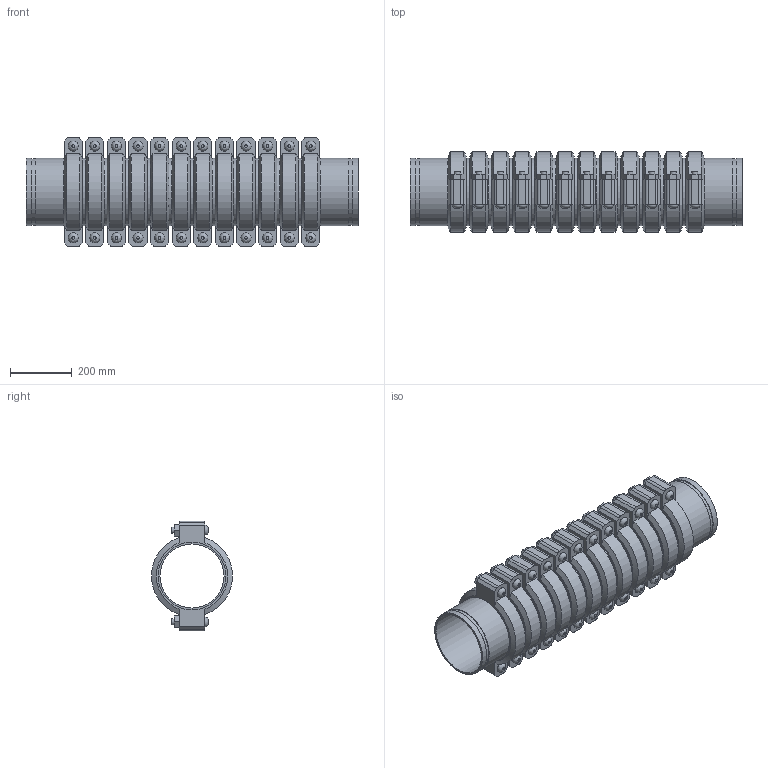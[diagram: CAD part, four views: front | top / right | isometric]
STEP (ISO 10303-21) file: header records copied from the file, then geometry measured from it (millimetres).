
FILE_DESCRIPTION(/* description */ ('VIC SS EXPANSION JOINT 12 COUPLINGS COMPRESSED STYLE 155P (OGS) (POTABLE WATER) ','CAx-IF Rec.Pracs.---Representation and Presentation of Product Manufacturing Information (PMI)---4.0---2014-10-13'),/* implementation_level */ '2;1');
FILE_NAME(/* name */ 'C:\Users\kkamble\AppData\Roaming\Autodesk\ApplicationPlugins\Victaulic.Temp\A528\Victaulic_SS_Expansion Joint_Compressed_12 Couplings_Style 155P (OGS)-Potable Water_12 Coup_Comp_8 (200).stp',/* time_stamp */ '2021-07-16T17:08:27+06:00',/* author */ ('kkamble'),/* organization */ ('Victaulic'),/* preprocessor_version */ 'ST-DEVELOPER v17.2',/* originating_system */ 'Autodesk Inventor 2019',/* authorisation */ '');
FILE_SCHEMA (('AP242_MANAGED_MODEL_BASED_3D_ENGINEERING_MIM_LF { 1 0 10303 442 1 1 4 }'));
Length unit declared in the file: inch
Products named in the file (4): 155P-08.0; Nipple-08.0; Nipple-08.0_1; 075-08.0
Assembly tree (25 placements, depth 2):
  155P-08.0
    Nipple-08.0  x2
    Nipple-08.0_1  x11
    075-08.0  x12
Bounding box: 1073.15 x 261.72 x 354.84 mm (x, y, z)
Volume: 20462647.6 mm3; surface area: 3625801.9 mm2
Topology: 25 solids, 49 shells, 792 faces, 1914 edges, 1344 vertices
Faces by surface type: plane 486, cylinder 234, cone 48, bspline 24
Full cylindrical faces by diameter (mm): 19.05 x48, 21.209 x24, 206.985 x13, 214.401 x26, 219.075 x51
Entity records: 2801 total; most frequent: CARTESIAN_POINT 495, DIRECTION 475, ORIENTED_EDGE 374, AXIS2_PLACEMENT_3D 192, EDGE_CURVE 187, VERTEX_POINT 134, EDGE_LOOP 101, LINE 91
